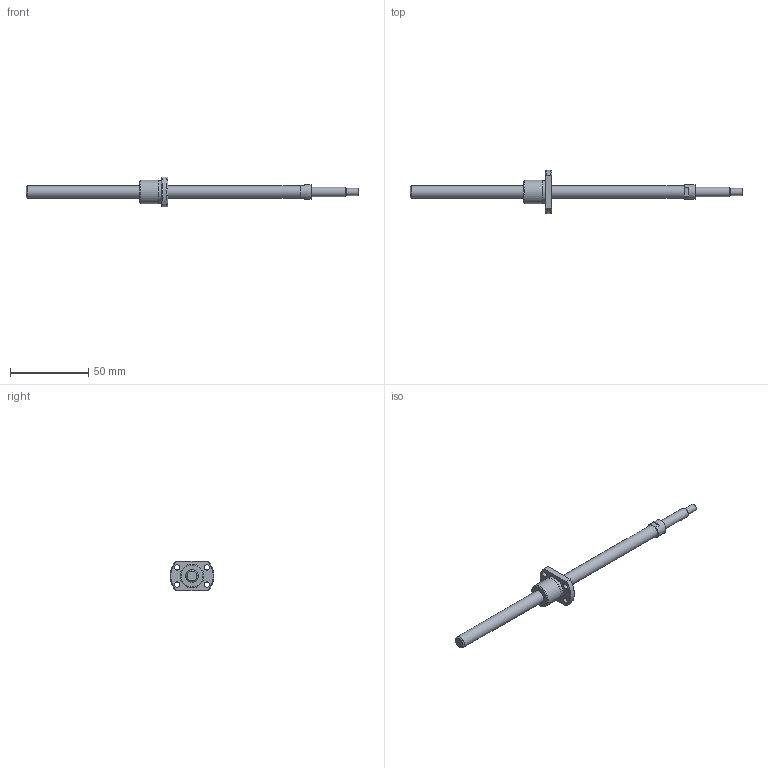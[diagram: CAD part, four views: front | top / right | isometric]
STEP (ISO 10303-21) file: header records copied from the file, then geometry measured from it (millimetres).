
FILE_DESCRIPTION(/* description */ ('STEP AP214'),/* implementation_level */ '2;1');
FILE_NAME(/* name */ 'SRT0802K-171R212C7A0X(A72.5Processing0X)',/* time_stamp */ '2026-08-04T20:00:50+02:00',/* author */ ('License CC BY-ND 4.0'),/* organization */ ('CADENAS'),/* preprocessor_version */ 'ST-DEVELOPER v20',/* originating_system */ 'PARTsolutions',/* authorisation */ ' ');
FILE_SCHEMA (('AUTOMOTIVE_DESIGN {1 0 10303 214 3 1 1}'));
Length unit declared in the file: millimetre
Products named in the file (3): SRT0802K-171R212C7A0X(A72.5Processing0X); 8AProcessing212; SR0802K_nut
Assembly tree (2 placements, depth 2):
  SRT0802K-171R212C7A0X(A72.5Processing0X)
    8AProcessing212
    SR0802K_nut
Bounding box: 212 x 27.9 x 19 mm (x, y, z)
Volume: 13362.3 mm3; surface area: 7651.2 mm2
Topology: 2 solids, 2 shells, 36 faces, 78 edges, 50 vertices
Faces by surface type: plane 16, cylinder 13, cone 7
Full cylindrical faces by diameter (mm): 3.4 x4, 4.5 x1, 6 x1, 8 x2, 9.5 x1, 14.6 x1, 15 x1
Entity records: 1015 total; most frequent: CARTESIAN_POINT 175, DIRECTION 170, ORIENTED_EDGE 126, AXIS2_PLACEMENT_3D 76, EDGE_LOOP 64, FACE_BOUND 64, EDGE_CURVE 63, VERTEX_POINT 49
